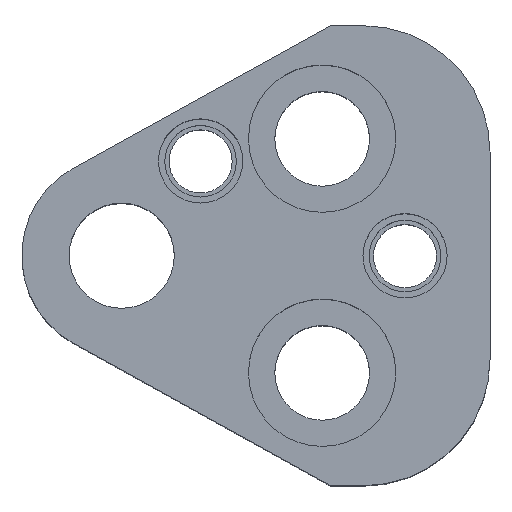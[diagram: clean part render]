
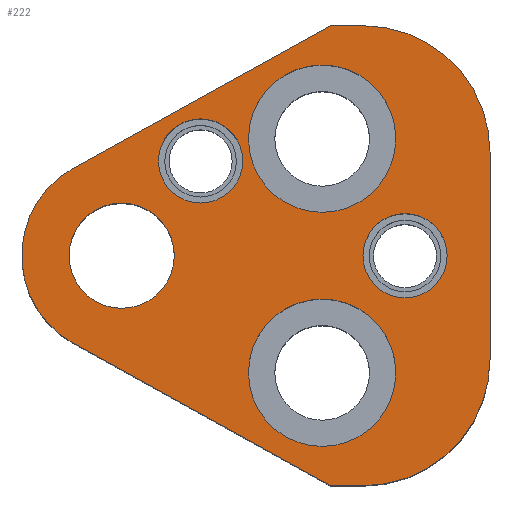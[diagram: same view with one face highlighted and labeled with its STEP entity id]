
A CAD part, top view. The second image highlights one B-rep face of the part: STEP entity #222.
In plain terms, the highlighted planar face has unit normal (0, 0, 1).
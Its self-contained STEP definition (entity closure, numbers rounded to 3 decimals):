
#101=FACE_BOUND('',#311,.T.);
#102=FACE_BOUND('',#312,.T.);
#103=FACE_BOUND('',#313,.T.);
#104=FACE_BOUND('',#314,.T.);
#105=FACE_BOUND('',#315,.T.);
#106=FACE_BOUND('',#316,.T.);
#150=CIRCLE('',#788,12.);
#152=CIRCLE('',#792,12.);
#155=CIRCLE('',#798,9.5);
#164=CIRCLE('',#812,7.);
#166=CIRCLE('',#815,7.);
#168=CIRCLE('',#819,7.);
#170=CIRCLE('',#822,7.);
#172=CIRCLE('',#826,4.);
#173=CIRCLE('',#827,4.);
#174=CIRCLE('',#828,4.);
#175=CIRCLE('',#829,4.);
#176=CIRCLE('',#830,5.);
#177=CIRCLE('',#831,5.);
#222=ADVANCED_FACE('',(#101,#102,#103,#104,#105,#106),#252,.T.);
#252=PLANE('',#832);
#311=EDGE_LOOP('',(#421,#422,#423,#424,#425,#426,#427,#428));
#312=EDGE_LOOP('',(#429,#430));
#313=EDGE_LOOP('',(#431,#432));
#314=EDGE_LOOP('',(#433,#434));
#315=EDGE_LOOP('',(#435,#436));
#316=EDGE_LOOP('',(#437,#438));
#421=ORIENTED_EDGE('',*,*,#606,.T.);
#422=ORIENTED_EDGE('',*,*,#610,.T.);
#423=ORIENTED_EDGE('',*,*,#613,.T.);
#424=ORIENTED_EDGE('',*,*,#616,.T.);
#425=ORIENTED_EDGE('',*,*,#619,.T.);
#426=ORIENTED_EDGE('',*,*,#622,.T.);
#427=ORIENTED_EDGE('',*,*,#625,.T.);
#428=ORIENTED_EDGE('',*,*,#628,.T.);
#429=ORIENTED_EDGE('',*,*,#653,.F.);
#430=ORIENTED_EDGE('',*,*,#654,.F.);
#431=ORIENTED_EDGE('',*,*,#655,.F.);
#432=ORIENTED_EDGE('',*,*,#656,.F.);
#433=ORIENTED_EDGE('',*,*,#651,.F.);
#434=ORIENTED_EDGE('',*,*,#647,.F.);
#435=ORIENTED_EDGE('',*,*,#645,.F.);
#436=ORIENTED_EDGE('',*,*,#641,.F.);
#437=ORIENTED_EDGE('',*,*,#657,.T.);
#438=ORIENTED_EDGE('',*,*,#658,.T.);
#542=VERTEX_POINT('',#1118);
#543=VERTEX_POINT('',#1120);
#546=VERTEX_POINT('',#1127);
#548=VERTEX_POINT('',#1133);
#550=VERTEX_POINT('',#1139);
#552=VERTEX_POINT('',#1145);
#554=VERTEX_POINT('',#1151);
#556=VERTEX_POINT('',#1157);
#565=VERTEX_POINT('',#1189);
#566=VERTEX_POINT('',#1190);
#569=VERTEX_POINT('',#1202);
#570=VERTEX_POINT('',#1203);
#573=VERTEX_POINT('',#1215);
#574=VERTEX_POINT('',#1216);
#575=VERTEX_POINT('',#1219);
#576=VERTEX_POINT('',#1220);
#577=VERTEX_POINT('',#1223);
#578=VERTEX_POINT('',#1224);
#606=EDGE_CURVE('',#543,#542,#702,.T.);
#610=EDGE_CURVE('',#542,#546,#706,.T.);
#613=EDGE_CURVE('',#546,#548,#150,.T.);
#616=EDGE_CURVE('',#548,#550,#710,.T.);
#619=EDGE_CURVE('',#550,#552,#152,.T.);
#622=EDGE_CURVE('',#552,#554,#714,.T.);
#625=EDGE_CURVE('',#554,#556,#717,.T.);
#628=EDGE_CURVE('',#556,#543,#155,.T.);
#641=EDGE_CURVE('',#565,#566,#164,.T.);
#645=EDGE_CURVE('',#566,#565,#166,.T.);
#647=EDGE_CURVE('',#569,#570,#168,.T.);
#651=EDGE_CURVE('',#570,#569,#170,.T.);
#653=EDGE_CURVE('',#573,#574,#172,.T.);
#654=EDGE_CURVE('',#574,#573,#173,.T.);
#655=EDGE_CURVE('',#575,#576,#174,.T.);
#656=EDGE_CURVE('',#576,#575,#175,.T.);
#657=EDGE_CURVE('',#577,#578,#176,.T.);
#658=EDGE_CURVE('',#578,#577,#177,.T.);
#702=LINE('',#1119,#744);
#706=LINE('',#1128,#748);
#710=LINE('',#1140,#752);
#714=LINE('',#1152,#756);
#717=LINE('',#1158,#759);
#744=VECTOR('',#884,1.);
#748=VECTOR('',#890,1.);
#752=VECTOR('',#902,1.);
#756=VECTOR('',#914,1.);
#759=VECTOR('',#919,1.);
#788=AXIS2_PLACEMENT_3D('',#1134,#895,#896);
#792=AXIS2_PLACEMENT_3D('',#1146,#907,#908);
#798=AXIS2_PLACEMENT_3D('',#1162,#925,#926);
#812=AXIS2_PLACEMENT_3D('',#1188,#957,#958);
#815=AXIS2_PLACEMENT_3D('',#1197,#965,#966);
#819=AXIS2_PLACEMENT_3D('',#1201,#973,#974);
#822=AXIS2_PLACEMENT_3D('',#1210,#981,#982);
#826=AXIS2_PLACEMENT_3D('',#1214,#989,#990);
#827=AXIS2_PLACEMENT_3D('',#1217,#991,#992);
#828=AXIS2_PLACEMENT_3D('',#1218,#993,#994);
#829=AXIS2_PLACEMENT_3D('',#1221,#995,#996);
#830=AXIS2_PLACEMENT_3D('',#1222,#997,#998);
#831=AXIS2_PLACEMENT_3D('',#1225,#999,#1000);
#832=AXIS2_PLACEMENT_3D('',#1226,#1001,#1002);
#884=DIRECTION('',(0.875,-0.485,0.));
#890=DIRECTION('',(1.,0.,0.));
#895=DIRECTION('',(0.,0.,1.));
#896=DIRECTION('',(-0.707,0.707,0.));
#902=DIRECTION('',(0.,1.,0.));
#907=DIRECTION('',(0.,0.,1.));
#908=DIRECTION('',(-0.707,-0.707,0.));
#914=DIRECTION('',(-1.,0.,0.));
#919=DIRECTION('',(-0.875,-0.485,0.));
#925=DIRECTION('',(0.,0.,1.));
#926=DIRECTION('',(1.,0.,0.));
#957=DIRECTION('',(0.,0.,1.));
#958=DIRECTION('',(-1.,0.,0.));
#965=DIRECTION('',(0.,0.,1.));
#966=DIRECTION('',(1.,0.,0.));
#973=DIRECTION('',(0.,0.,1.));
#974=DIRECTION('',(-1.,0.,0.));
#981=DIRECTION('',(0.,0.,1.));
#982=DIRECTION('',(1.,0.,0.));
#989=DIRECTION('',(0.,0.,1.));
#990=DIRECTION('',(1.,0.,0.));
#991=DIRECTION('',(0.,0.,1.));
#992=DIRECTION('',(-1.,0.,0.));
#993=DIRECTION('',(0.,0.,1.));
#994=DIRECTION('',(1.,0.,0.));
#995=DIRECTION('',(0.,0.,1.));
#996=DIRECTION('',(-1.,0.,0.));
#997=DIRECTION('',(0.,0.,-1.));
#998=DIRECTION('',(-1.,0.,0.));
#999=DIRECTION('',(0.,0.,-1.));
#1000=DIRECTION('',(1.,0.,0.));
#1001=DIRECTION('',(0.,0.,1.));
#1002=DIRECTION('',(-0.875,0.485,0.));
#1118=CARTESIAN_POINT('',(19.823,-21.85,32.));
#1119=CARTESIAN_POINT('',(19.823,-21.85,32.));
#1120=CARTESIAN_POINT('',(-4.606,-8.309,32.));
#1127=CARTESIAN_POINT('',(23.,-21.85,32.));
#1128=CARTESIAN_POINT('',(19.823,-21.85,32.));
#1133=CARTESIAN_POINT('',(35.,-9.85,32.));
#1134=CARTESIAN_POINT('',(23.,-9.85,32.));
#1139=CARTESIAN_POINT('',(35.,9.85,32.));
#1140=CARTESIAN_POINT('',(35.,9.85,32.));
#1145=CARTESIAN_POINT('',(23.,21.85,32.));
#1146=CARTESIAN_POINT('',(23.,9.85,32.));
#1151=CARTESIAN_POINT('',(19.823,21.85,32.));
#1152=CARTESIAN_POINT('',(19.823,21.85,32.));
#1157=CARTESIAN_POINT('',(-4.606,8.309,32.));
#1158=CARTESIAN_POINT('',(19.823,21.85,32.));
#1162=CARTESIAN_POINT('',(0.,0.,32.));
#1188=CARTESIAN_POINT('',(19.05,-11.12,32.));
#1189=CARTESIAN_POINT('',(19.05,-18.12,32.));
#1190=CARTESIAN_POINT('',(19.05,-4.12,32.));
#1197=CARTESIAN_POINT('',(19.05,-11.12,32.));
#1201=CARTESIAN_POINT('',(19.05,11.12,32.));
#1202=CARTESIAN_POINT('',(19.05,4.12,32.));
#1203=CARTESIAN_POINT('',(19.05,18.12,32.));
#1210=CARTESIAN_POINT('',(19.05,11.12,32.));
#1214=CARTESIAN_POINT('',(26.925,0.,32.));
#1215=CARTESIAN_POINT('',(26.925,4.,32.));
#1216=CARTESIAN_POINT('',(26.925,-4.,32.));
#1217=CARTESIAN_POINT('',(26.925,0.,32.));
#1218=CARTESIAN_POINT('',(7.5,9.,32.));
#1219=CARTESIAN_POINT('',(7.5,13.,32.));
#1220=CARTESIAN_POINT('',(7.5,5.,32.));
#1221=CARTESIAN_POINT('',(7.5,9.,32.));
#1222=CARTESIAN_POINT('',(0.,0.,32.));
#1223=CARTESIAN_POINT('',(0.,5.,32.));
#1224=CARTESIAN_POINT('',(0.,-5.,32.));
#1225=CARTESIAN_POINT('',(0.,0.,32.));
#1226=CARTESIAN_POINT('',(-4.606,-8.309,32.));
